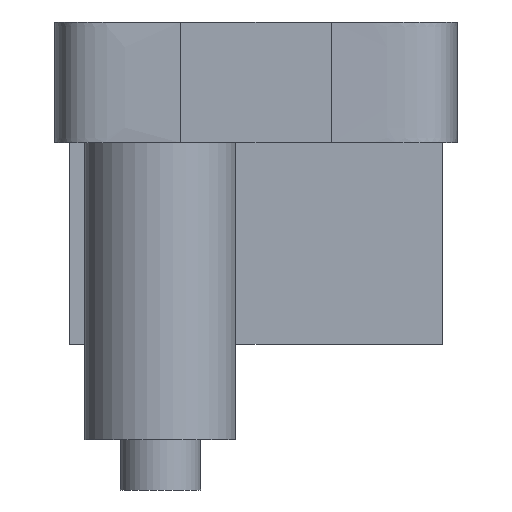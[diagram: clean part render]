
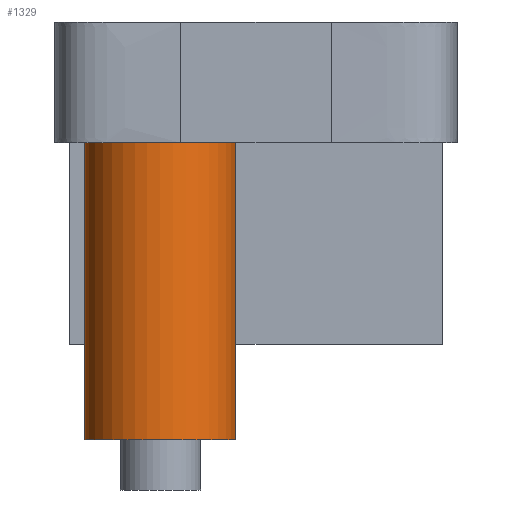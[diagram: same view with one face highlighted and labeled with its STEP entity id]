
A CAD part, left-side view. The second image highlights one B-rep face of the part: STEP entity #1329.
In plain terms, the highlighted cylindrical face has radius 1.5 mm (diameter 3 mm), a full revolution.
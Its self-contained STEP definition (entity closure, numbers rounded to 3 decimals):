
#224 = PLANE('',#225);
#225 = AXIS2_PLACEMENT_3D('',#226,#227,#228);
#226 = CARTESIAN_POINT('',(79.,10.,13.));
#227 = DIRECTION('',(-0.,-0.,1.));
#228 = DIRECTION('',(-1.,0.,0.));
#770 = EDGE_CURVE('',#771,#771,#773,.T.);
#771 = VERTEX_POINT('',#772);
#772 = CARTESIAN_POINT('',(73.,11.9,13.));
#773 = SURFACE_CURVE('',#774,(#779,#790),.PCURVE_S1.);
#774 = CIRCLE('',#775,1.5);
#775 = AXIS2_PLACEMENT_3D('',#776,#777,#778);
#776 = CARTESIAN_POINT('',(71.5,11.9,13.));
#777 = DIRECTION('',(0.,0.,-1.));
#778 = DIRECTION('',(1.,-0.,-0.));
#779 = PCURVE('',#224,#780);
#780 = DEFINITIONAL_REPRESENTATION('',(#781),#789);
#781 = ( BOUNDED_CURVE() B_SPLINE_CURVE(2,(#782,#783,#784,#785,#786,#787
,#788),.UNSPECIFIED.,.T.,.F.) B_SPLINE_CURVE_WITH_KNOTS((1,2,2,2,2,1),(
    -2.094,0.,2.094,4.189,6.283,
8.378),.UNSPECIFIED.) CURVE() GEOMETRIC_REPRESENTATION_ITEM() 
RATIONAL_B_SPLINE_CURVE((1.,0.5,1.,0.5,1.,0.5,1.)) REPRESENTATION_ITEM(
  '') );
#782 = CARTESIAN_POINT('',(6.,-1.9));
#783 = CARTESIAN_POINT('',(6.,0.698));
#784 = CARTESIAN_POINT('',(8.25,-0.601));
#785 = CARTESIAN_POINT('',(10.5,-1.9));
#786 = CARTESIAN_POINT('',(8.25,-3.199));
#787 = CARTESIAN_POINT('',(6.,-4.498));
#788 = CARTESIAN_POINT('',(6.,-1.9));
#789 = ( GEOMETRIC_REPRESENTATION_CONTEXT(2) 
PARAMETRIC_REPRESENTATION_CONTEXT() REPRESENTATION_CONTEXT('2D SPACE',''
  ) );
#790 = PCURVE('',#791,#796);
#791 = CYLINDRICAL_SURFACE('',#792,1.5);
#792 = AXIS2_PLACEMENT_3D('',#793,#794,#795);
#793 = CARTESIAN_POINT('',(71.5,11.9,7.1));
#794 = DIRECTION('',(-0.,-0.,1.));
#795 = DIRECTION('',(1.,-0.,-0.));
#796 = DEFINITIONAL_REPRESENTATION('',(#797),#801);
#797 = LINE('',#798,#799);
#798 = CARTESIAN_POINT('',(-0.,5.9));
#799 = VECTOR('',#800,1.);
#800 = DIRECTION('',(-1.,0.));
#801 = ( GEOMETRIC_REPRESENTATION_CONTEXT(2) 
PARAMETRIC_REPRESENTATION_CONTEXT() REPRESENTATION_CONTEXT('2D SPACE',''
  ) );
#1329 = ADVANCED_FACE('',(#1330),#791,.T.);
#1330 = FACE_BOUND('',#1331,.F.);
#1331 = EDGE_LOOP('',(#1332,#1333,#1356,#1387));
#1332 = ORIENTED_EDGE('',*,*,#770,.F.);
#1333 = ORIENTED_EDGE('',*,*,#1334,.F.);
#1334 = EDGE_CURVE('',#1335,#771,#1337,.T.);
#1335 = VERTEX_POINT('',#1336);
#1336 = CARTESIAN_POINT('',(73.,11.9,7.1));
#1337 = SEAM_CURVE('',#1338,(#1342,#1349),.PCURVE_S1.);
#1338 = LINE('',#1339,#1340);
#1339 = CARTESIAN_POINT('',(73.,11.9,7.1));
#1340 = VECTOR('',#1341,1.);
#1341 = DIRECTION('',(-0.,-0.,1.));
#1342 = PCURVE('',#791,#1343);
#1343 = DEFINITIONAL_REPRESENTATION('',(#1344),#1348);
#1344 = LINE('',#1345,#1346);
#1345 = CARTESIAN_POINT('',(-6.283,-0.));
#1346 = VECTOR('',#1347,1.);
#1347 = DIRECTION('',(-0.,1.));
#1348 = ( GEOMETRIC_REPRESENTATION_CONTEXT(2) 
PARAMETRIC_REPRESENTATION_CONTEXT() REPRESENTATION_CONTEXT('2D SPACE',''
  ) );
#1349 = PCURVE('',#791,#1350);
#1350 = DEFINITIONAL_REPRESENTATION('',(#1351),#1355);
#1351 = LINE('',#1352,#1353);
#1352 = CARTESIAN_POINT('',(-0.,-0.));
#1353 = VECTOR('',#1354,1.);
#1354 = DIRECTION('',(-0.,1.));
#1355 = ( GEOMETRIC_REPRESENTATION_CONTEXT(2) 
PARAMETRIC_REPRESENTATION_CONTEXT() REPRESENTATION_CONTEXT('2D SPACE',''
  ) );
#1356 = ORIENTED_EDGE('',*,*,#1357,.T.);
#1357 = EDGE_CURVE('',#1335,#1335,#1358,.T.);
#1358 = SURFACE_CURVE('',#1359,(#1364,#1371),.PCURVE_S1.);
#1359 = CIRCLE('',#1360,1.5);
#1360 = AXIS2_PLACEMENT_3D('',#1361,#1362,#1363);
#1361 = CARTESIAN_POINT('',(71.5,11.9,7.1));
#1362 = DIRECTION('',(0.,0.,-1.));
#1363 = DIRECTION('',(1.,-0.,-0.));
#1364 = PCURVE('',#791,#1365);
#1365 = DEFINITIONAL_REPRESENTATION('',(#1366),#1370);
#1366 = LINE('',#1367,#1368);
#1367 = CARTESIAN_POINT('',(-0.,0.));
#1368 = VECTOR('',#1369,1.);
#1369 = DIRECTION('',(-1.,0.));
#1370 = ( GEOMETRIC_REPRESENTATION_CONTEXT(2) 
PARAMETRIC_REPRESENTATION_CONTEXT() REPRESENTATION_CONTEXT('2D SPACE',''
  ) );
#1371 = PCURVE('',#1372,#1377);
#1372 = PLANE('',#1373);
#1373 = AXIS2_PLACEMENT_3D('',#1374,#1375,#1376);
#1374 = CARTESIAN_POINT('',(71.5,11.9,7.1));
#1375 = DIRECTION('',(-0.,-0.,1.));
#1376 = DIRECTION('',(-1.,0.,0.));
#1377 = DEFINITIONAL_REPRESENTATION('',(#1378),#1386);
#1378 = ( BOUNDED_CURVE() B_SPLINE_CURVE(2,(#1379,#1380,#1381,#1382,
#1383,#1384,#1385),.UNSPECIFIED.,.T.,.F.) B_SPLINE_CURVE_WITH_KNOTS((1,2
    ,2,2,2,1),(-2.094,0.,2.094,4.189,
6.283,8.378),.UNSPECIFIED.) CURVE() 
GEOMETRIC_REPRESENTATION_ITEM() RATIONAL_B_SPLINE_CURVE((1.,0.5,1.,0.5,
1.,0.5,1.)) REPRESENTATION_ITEM('') );
#1379 = CARTESIAN_POINT('',(-1.5,0.));
#1380 = CARTESIAN_POINT('',(-1.5,2.598));
#1381 = CARTESIAN_POINT('',(0.75,1.299));
#1382 = CARTESIAN_POINT('',(3.,0.));
#1383 = CARTESIAN_POINT('',(0.75,-1.299));
#1384 = CARTESIAN_POINT('',(-1.5,-2.598));
#1385 = CARTESIAN_POINT('',(-1.5,0.));
#1386 = ( GEOMETRIC_REPRESENTATION_CONTEXT(2) 
PARAMETRIC_REPRESENTATION_CONTEXT() REPRESENTATION_CONTEXT('2D SPACE',''
  ) );
#1387 = ORIENTED_EDGE('',*,*,#1334,.T.);
